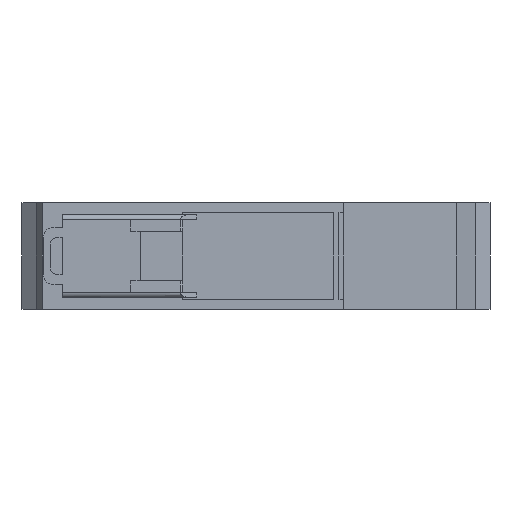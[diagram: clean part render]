
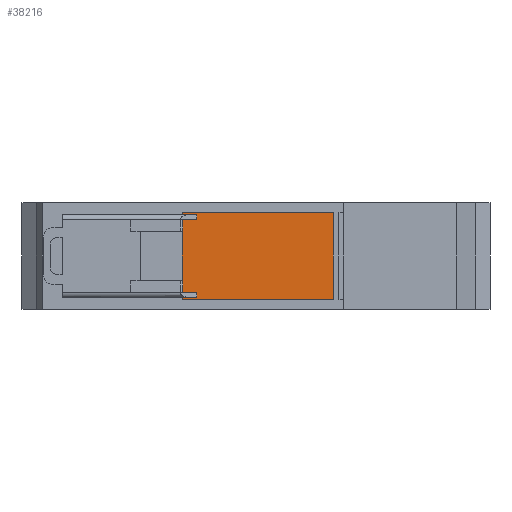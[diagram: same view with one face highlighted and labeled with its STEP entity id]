
A CAD part, front view. The second image highlights one B-rep face of the part: STEP entity #38216.
In plain terms, the highlighted planar face has unit normal (0, -1, 0).
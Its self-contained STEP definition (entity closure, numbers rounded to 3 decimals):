
#6179=DIRECTION('',(0.,0.,-1.));
#6180=VECTOR('',#6179,18.37);
#6181=CARTESIAN_POINT('',(16.36,-105.23,9.185));
#6182=LINE('',#6181,#6180);
#6183=DIRECTION('',(-1.,0.,0.));
#6184=VECTOR('',#6183,32.);
#6185=CARTESIAN_POINT('',(16.36,-105.23,-9.185));
#6186=LINE('',#6185,#6184);
#6187=DIRECTION('',(0.,0.,1.));
#6188=VECTOR('',#6187,18.37);
#6189=CARTESIAN_POINT('',(-15.64,-105.23,-9.185));
#6190=LINE('',#6189,#6188);
#6191=DIRECTION('',(1.,0.,0.));
#6192=VECTOR('',#6191,32.);
#6193=CARTESIAN_POINT('',(-15.64,-105.23,9.185));
#6194=LINE('',#6193,#6192);
#27768=CARTESIAN_POINT('',(16.36,-105.23,9.185));
#27769=CARTESIAN_POINT('',(16.36,-105.23,-9.185));
#27770=VERTEX_POINT('',#27768);
#27771=VERTEX_POINT('',#27769);
#31729=CARTESIAN_POINT('',(-15.64,-105.23,-9.185));
#31730=VERTEX_POINT('',#31729);
#31731=CARTESIAN_POINT('',(-15.64,-105.23,9.185));
#31732=VERTEX_POINT('',#31731);
#38205=CARTESIAN_POINT('',(16.36,-105.23,9.185));
#38206=DIRECTION('',(0.,1.,0.));
#38207=DIRECTION('',(0.,0.,1.));
#38208=AXIS2_PLACEMENT_3D('',#38205,#38206,#38207);
#38209=PLANE('',#38208);
#38210=ORIENTED_EDGE('',*,*,#38172,.T.);
#38211=ORIENTED_EDGE('',*,*,#38186,.T.);
#38212=ORIENTED_EDGE('',*,*,#38199,.T.);
#38213=ORIENTED_EDGE('',*,*,#38157,.T.);
#38214=EDGE_LOOP('',(#38210,#38211,#38212,#38213));
#38215=FACE_OUTER_BOUND('',#38214,.F.);
#38216=ADVANCED_FACE('',(#38215),#38209,.F.);
#38157=EDGE_CURVE('',#31732,#27770,#6194,.T.);
#38172=EDGE_CURVE('',#27770,#27771,#6182,.T.);
#38186=EDGE_CURVE('',#27771,#31730,#6186,.T.);
#38199=EDGE_CURVE('',#31730,#31732,#6190,.T.);
